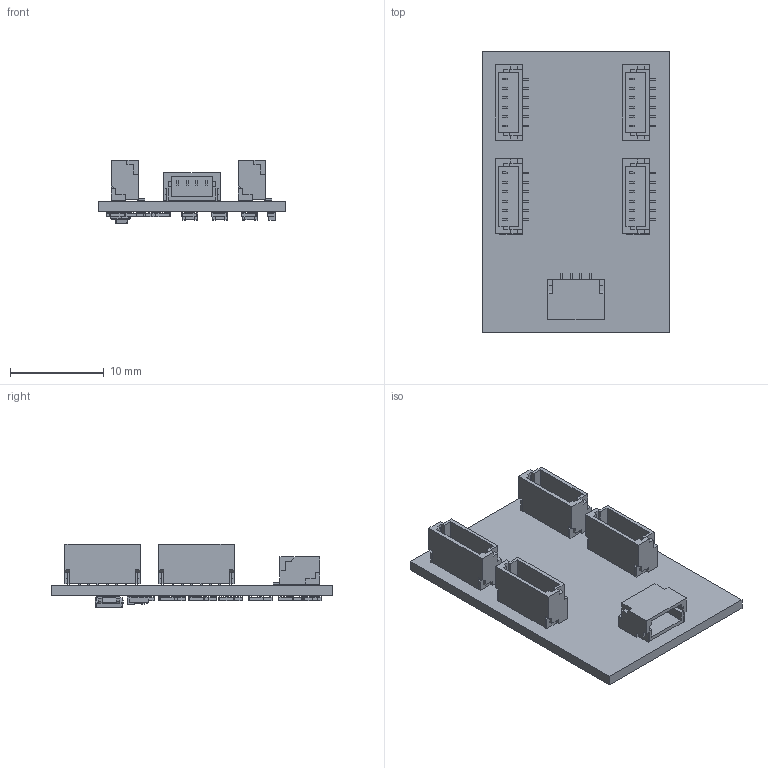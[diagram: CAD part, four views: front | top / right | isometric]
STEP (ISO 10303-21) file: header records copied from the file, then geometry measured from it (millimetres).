
FILE_DESCRIPTION(('KiCad electronic assembly'),'2;1');
FILE_NAME('PoseDoll_RevO4_distal4_rs485_stretch.step', '2026-09-24T05:32:55',('Pcbnew'),('Kicad'), 'Open CASCADE STEP processor 7.9','KiCad to STEP converter','Unknown' );
FILE_SCHEMA(('AUTOMOTIVE_DESIGN { 1 0 10303 214 1 1 1 1 }'));
Length unit declared in the file: millimetre
Products named in the file (14): PoseDoll_RevO4_distal4_rs485_stretch 1; JST_SH_BM06B-SRSS-TB_1x06-1MP_P1.00mm_Vertical; JST_SH_SM04B-SRSS-TB_1x04-1MP_P1.00mm_Horizontal; R_0603_1608Metric; C_0603_1608Metric; SOT-23; SOT-583-8; PoseDoll_RevO4_distal4_rs485_stretch_PCB
Assembly tree (63 placements, depth 3):
  PoseDoll_RevO4_distal4_rs485_stretch 1
    JST_SH_BM06B-SRSS-TB_1x06-1MP_P1.00mm_Vertical  x4
      JST_SH_BM06B-SRSS-TB_1x06-1MP_P1.00mm_Vertical
    JST_SH_SM04B-SRSS-TB_1x04-1MP_P1.00mm_Horizontal
      JST_SH_SM04B-SRSS-TB_1x04-1MP_P1.00mm_Horizontal
    R_0603_1608Metric  x40
      R_0603_1608Metric
    C_0603_1608Metric  x9
      C_0603_1608Metric
    SOT-23
      SOT-23
    SOT-583-8
      SOT-583-8
    PoseDoll_RevO4_distal4_rs485_stretch_PCB
Bounding box: 20 x 30 x 6.8 mm (x, y, z)
Volume: 971.6 mm3; surface area: 2590.5 mm2
Topology: 57 solids, 57 shells, 1994 faces, 5224 edges, 3397 vertices
Faces by surface type: plane 1521, cylinder 441, bspline 32
Full cylindrical faces by diameter (mm): 0.1 x1
Entity records: 16197 total; most frequent: CARTESIAN_POINT 2390, ORIENTED_EDGE 2096, DIRECTION 1941, EDGE_CURVE 1048, LINE 933, VECTOR 933, VERTEX_POINT 673, AXIS2_PLACEMENT_3D 504
